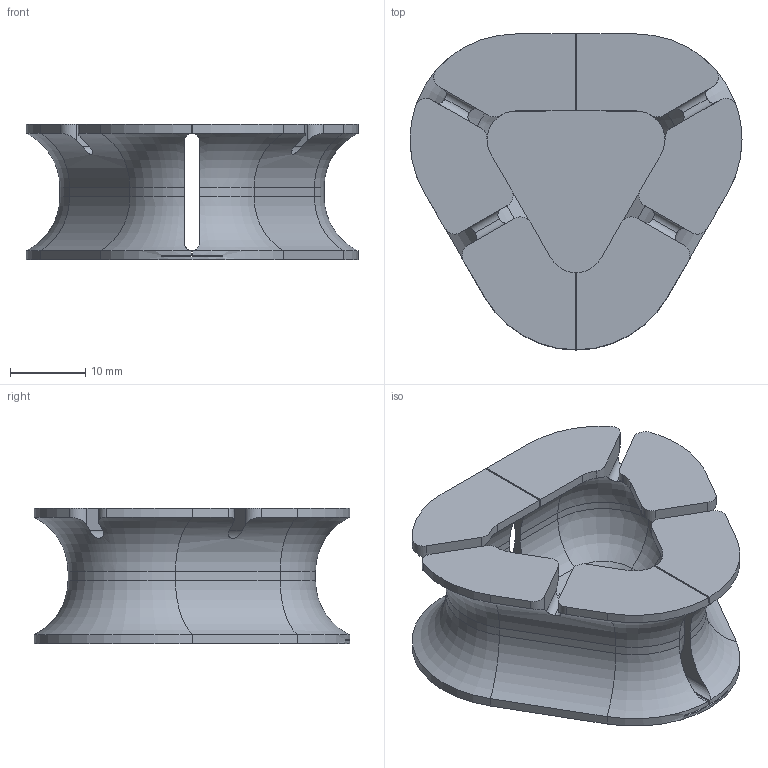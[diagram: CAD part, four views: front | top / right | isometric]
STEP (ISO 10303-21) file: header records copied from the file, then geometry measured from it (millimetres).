
FILE_DESCRIPTION (( 'STEP AP214' ), '1' );
FILE_NAME ('Earbud Case v1-4 SMALL.STEP', '2018-04-27T23:14:46', ( '' ), ( '' ), 'SwSTEP 2.0', 'SolidWorks 2015', '' );
FILE_SCHEMA (( 'AUTOMOTIVE_DESIGN' ));
Length unit declared in the file: millimetre
Products named in the file (2): Earbud Case v1-4 SMALL
Bounding box: 44 x 41.86 x 18 mm (x, y, z)
Volume: 7704.2 mm3; surface area: 7822.6 mm2
Topology: 1 solids, 1 shells, 173 faces, 458 edges, 287 vertices
Faces by surface type: cylinder 83, plane 67, torus 18, cone 5
Entity records: 5868 total; most frequent: CARTESIAN_POINT 1586, ORIENTED_EDGE 916, DIRECTION 871, EDGE_CURVE 458, AXIS2_PLACEMENT_3D 318, VERTEX_POINT 287, LINE 235, VECTOR 235
